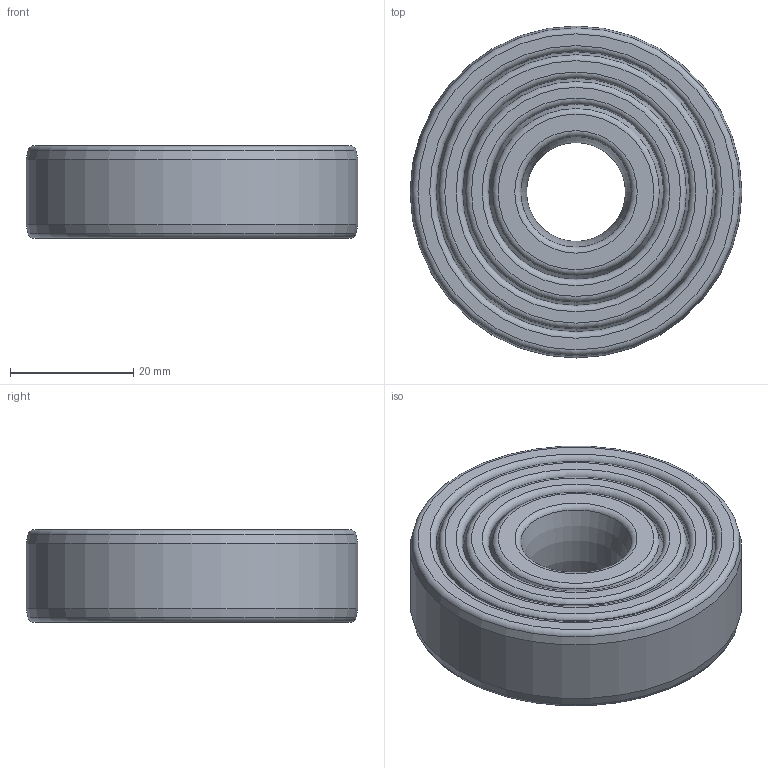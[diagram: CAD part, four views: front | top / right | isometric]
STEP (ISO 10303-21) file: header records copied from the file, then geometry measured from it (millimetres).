
FILE_DESCRIPTION(/* description */ ('STEP AP242 Edition 2','CAx-IF Rec.Pracs.---Representation and Presentation of Product Manufacturing Information (PMI)---4.0---2014-10-13','CAx-IF Rec.Pracs.---3D Tessellated Geometry---0.4---2014-09-14','2;1','CAx-IF Rec.Pracs.---User Defined Attributes---1.5---2016-08-15'),/* implementation_level */ '2;1');
FILE_NAME(/* name */ '692db433c2710495f5c6d069',/* time_stamp */ '2025-12-01T15:28:52Z',/* author */ (''),/* organization */ (''),/* preprocessor_version */ 'ST-DEVELOPER v20',/* originating_system */ 'ONSHAPE BY PTC INC, 1.207',/* authorisation */ ' ');
FILE_SCHEMA (('AP242_MANAGED_MODEL_BASED_3D_ENGINEERING_MIM_LF { 1 0 10303 442 3 1 4 }'));
Length unit declared in the file: metre
Products named in the file (4): Part 4; Part 2; Part 1; Part 3
Bounding box: 53.96 x 53.96 x 15 mm (x, y, z)
Volume: 28434.3 mm3; surface area: 17087.7 mm2
Topology: 4 solids, 4 shells, 34 faces, 75 edges, 49 vertices
Faces by surface type: torus 17, sphere 8, plane 8, cylinder 1
Full cylindrical faces by diameter (mm): 53.958 x1
Entity records: 800 total; most frequent: DIRECTION 144, CARTESIAN_POINT 106, AXIS2_PLACEMENT_3D 72, ORIENTED_EDGE 68, EDGE_LOOP 68, FACE_BOUND 68, EDGE_CURVE 34, VERTEX_POINT 34
